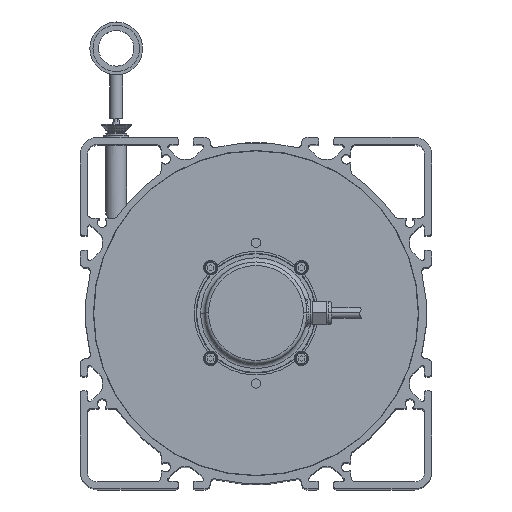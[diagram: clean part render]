
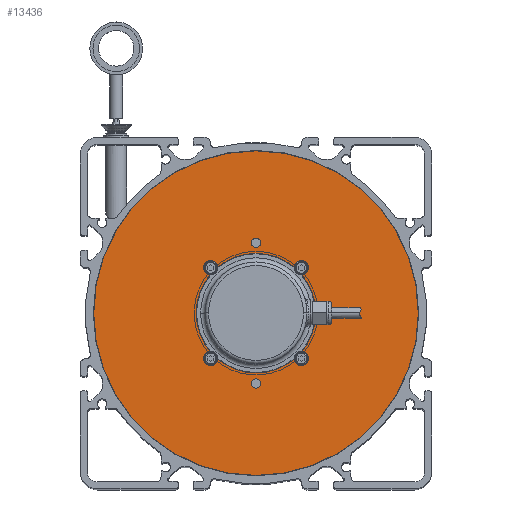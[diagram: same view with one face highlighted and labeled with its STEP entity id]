
A CAD part, top view. The second image highlights one B-rep face of the part: STEP entity #13436.
In plain terms, the highlighted planar face has unit normal (0, 0, 1) as drawn and (1, 0, 0) by its records, which use the part's own axes.
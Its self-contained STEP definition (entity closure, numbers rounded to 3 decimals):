
#12737=CARTESIAN_POINT('',(8.,0.,0.));
#12738=DIRECTION('',(-1.,0.,0.));
#12739=DIRECTION('',(0.,1.,0.));
#12740=AXIS2_PLACEMENT_3D('',#12737,#12738,#12739);
#12742=CARTESIAN_POINT('',(8.,0.,0.));
#12743=DIRECTION('',(1.,0.,0.));
#12744=DIRECTION('',(0.,1.,0.));
#12745=AXIS2_PLACEMENT_3D('',#12742,#12743,#12744);
#12747=CARTESIAN_POINT('',(8.,-25.809,-25.809));
#12748=DIRECTION('',(1.,0.,0.));
#12749=DIRECTION('',(0.,-1.,0.));
#12750=AXIS2_PLACEMENT_3D('',#12747,#12748,#12749);
#12752=CARTESIAN_POINT('',(8.,-25.809,-25.809));
#12753=DIRECTION('',(1.,0.,0.));
#12754=DIRECTION('',(0.,1.,0.));
#12755=AXIS2_PLACEMENT_3D('',#12752,#12753,#12754);
#12757=CARTESIAN_POINT('',(8.,-25.809,25.809));
#12758=DIRECTION('',(1.,0.,0.));
#12759=DIRECTION('',(0.,0.,1.));
#12760=AXIS2_PLACEMENT_3D('',#12757,#12758,#12759);
#12762=CARTESIAN_POINT('',(8.,-25.809,25.809));
#12763=DIRECTION('',(1.,0.,0.));
#12764=DIRECTION('',(0.,0.,-1.));
#12765=AXIS2_PLACEMENT_3D('',#12762,#12763,#12764);
#12767=CARTESIAN_POINT('',(8.,25.809,25.809));
#12768=DIRECTION('',(1.,0.,0.));
#12769=DIRECTION('',(0.,1.,0.));
#12770=AXIS2_PLACEMENT_3D('',#12767,#12768,#12769);
#12772=CARTESIAN_POINT('',(8.,25.809,25.809));
#12773=DIRECTION('',(1.,0.,0.));
#12774=DIRECTION('',(0.,-1.,0.));
#12775=AXIS2_PLACEMENT_3D('',#12772,#12773,#12774);
#12777=CARTESIAN_POINT('',(8.,25.809,-25.809));
#12778=DIRECTION('',(1.,0.,0.));
#12779=DIRECTION('',(0.,0.,-1.));
#12780=AXIS2_PLACEMENT_3D('',#12777,#12778,#12779);
#12782=CARTESIAN_POINT('',(8.,25.809,-25.809));
#12783=DIRECTION('',(1.,0.,0.));
#12784=DIRECTION('',(0.,0.,1.));
#12785=AXIS2_PLACEMENT_3D('',#12782,#12783,#12784);
#12787=CARTESIAN_POINT('',(8.,40.,0.));
#12788=DIRECTION('',(1.,0.,0.));
#12789=DIRECTION('',(0.,-1.,0.));
#12790=AXIS2_PLACEMENT_3D('',#12787,#12788,#12789);
#12792=CARTESIAN_POINT('',(8.,40.,0.));
#12793=DIRECTION('',(1.,0.,0.));
#12794=DIRECTION('',(0.,1.,0.));
#12795=AXIS2_PLACEMENT_3D('',#12792,#12793,#12794);
#12797=CARTESIAN_POINT('',(8.,-40.,0.));
#12798=DIRECTION('',(1.,0.,0.));
#12799=DIRECTION('',(0.,1.,0.));
#12800=AXIS2_PLACEMENT_3D('',#12797,#12798,#12799);
#12802=CARTESIAN_POINT('',(8.,-40.,0.));
#12803=DIRECTION('',(1.,0.,0.));
#12804=DIRECTION('',(0.,-1.,0.));
#12805=AXIS2_PLACEMENT_3D('',#12802,#12803,#12804);
#12807=CARTESIAN_POINT('',(8.,0.,0.));
#12808=DIRECTION('',(-1.,0.,0.));
#12809=DIRECTION('',(0.,1.,0.));
#12810=AXIS2_PLACEMENT_3D('',#12807,#12808,#12809);
#12812=CARTESIAN_POINT('',(8.,0.,0.));
#12813=DIRECTION('',(-1.,0.,0.));
#12814=DIRECTION('',(0.,-1.,0.));
#12815=AXIS2_PLACEMENT_3D('',#12812,#12813,#12814);
#13168=CARTESIAN_POINT('',(8.,34.,0.));
#13170=VERTEX_POINT('',#13168);
#13176=CARTESIAN_POINT('',(8.,-34.,0.));
#13178=VERTEX_POINT('',#13176);
#13183=CARTESIAN_POINT('',(8.,37.35,0.));
#13184=CARTESIAN_POINT('',(8.,42.65,0.));
#13185=VERTEX_POINT('',#13183);
#13186=VERTEX_POINT('',#13184);
#13187=CARTESIAN_POINT('',(8.,-37.35,0.));
#13188=CARTESIAN_POINT('',(8.,-42.65,0.));
#13189=VERTEX_POINT('',#13187);
#13190=VERTEX_POINT('',#13188);
#13195=CARTESIAN_POINT('',(8.,-28.159,-25.809));
#13196=CARTESIAN_POINT('',(8.,-23.459,-25.809));
#13197=VERTEX_POINT('',#13195);
#13198=VERTEX_POINT('',#13196);
#13203=CARTESIAN_POINT('',(8.,-25.809,28.159));
#13204=CARTESIAN_POINT('',(8.,-25.809,23.459));
#13205=VERTEX_POINT('',#13203);
#13206=VERTEX_POINT('',#13204);
#13211=CARTESIAN_POINT('',(8.,28.159,25.809));
#13212=CARTESIAN_POINT('',(8.,23.459,25.809));
#13213=VERTEX_POINT('',#13211);
#13214=VERTEX_POINT('',#13212);
#13219=CARTESIAN_POINT('',(8.,25.809,-28.159));
#13220=CARTESIAN_POINT('',(8.,25.809,-23.459));
#13221=VERTEX_POINT('',#13219);
#13222=VERTEX_POINT('',#13220);
#13227=CARTESIAN_POINT('',(8.,92.3,0.));
#13228=CARTESIAN_POINT('',(8.,-92.3,0.));
#13229=VERTEX_POINT('',#13227);
#13230=VERTEX_POINT('',#13228);
#13385=CARTESIAN_POINT('',(8.,0.,0.));
#13386=DIRECTION('',(1.,0.,0.));
#13387=DIRECTION('',(0.,-1.,0.));
#13388=AXIS2_PLACEMENT_3D('',#13385,#13386,#13387);
#13389=PLANE('',#13388);
#13391=ORIENTED_EDGE('',*,*,#13390,.T.);
#13393=ORIENTED_EDGE('',*,*,#13392,.T.);
#13394=EDGE_LOOP('',(#13391,#13393));
#13395=FACE_OUTER_BOUND('',#13394,.F.);
#13397=ORIENTED_EDGE('',*,*,#13396,.T.);
#13399=ORIENTED_EDGE('',*,*,#13398,.T.);
#13400=EDGE_LOOP('',(#13397,#13399));
#13401=FACE_BOUND('',#13400,.F.);
#13403=ORIENTED_EDGE('',*,*,#13402,.T.);
#13405=ORIENTED_EDGE('',*,*,#13404,.T.);
#13406=EDGE_LOOP('',(#13403,#13405));
#13407=FACE_BOUND('',#13406,.F.);
#13409=ORIENTED_EDGE('',*,*,#13408,.T.);
#13411=ORIENTED_EDGE('',*,*,#13410,.T.);
#13412=EDGE_LOOP('',(#13409,#13411));
#13413=FACE_BOUND('',#13412,.F.);
#13415=ORIENTED_EDGE('',*,*,#13414,.T.);
#13417=ORIENTED_EDGE('',*,*,#13416,.T.);
#13418=EDGE_LOOP('',(#13415,#13417));
#13419=FACE_BOUND('',#13418,.F.);
#13421=ORIENTED_EDGE('',*,*,#13420,.T.);
#13423=ORIENTED_EDGE('',*,*,#13422,.T.);
#13424=EDGE_LOOP('',(#13421,#13423));
#13425=FACE_BOUND('',#13424,.F.);
#13427=ORIENTED_EDGE('',*,*,#13426,.T.);
#13429=ORIENTED_EDGE('',*,*,#13428,.T.);
#13430=EDGE_LOOP('',(#13427,#13429));
#13431=FACE_BOUND('',#13430,.F.);
#13432=ORIENTED_EDGE('',*,*,#13378,.F.);
#13433=ORIENTED_EDGE('',*,*,#13367,.T.);
#13434=EDGE_LOOP('',(#13432,#13433));
#13435=FACE_BOUND('',#13434,.F.);
#13436=ADVANCED_FACE('',(#13395,#13401,#13407,#13413,#13419,#13425,#13431,
#13435),#13389,.T.);
#12741=CIRCLE('',#12740,34.);
#12746=CIRCLE('',#12745,34.);
#12751=CIRCLE('',#12750,2.35);
#12756=CIRCLE('',#12755,2.35);
#12761=CIRCLE('',#12760,2.35);
#12766=CIRCLE('',#12765,2.35);
#12771=CIRCLE('',#12770,2.35);
#12776=CIRCLE('',#12775,2.35);
#12781=CIRCLE('',#12780,2.35);
#12786=CIRCLE('',#12785,2.35);
#12791=CIRCLE('',#12790,2.65);
#12796=CIRCLE('',#12795,2.65);
#12801=CIRCLE('',#12800,2.65);
#12806=CIRCLE('',#12805,2.65);
#12811=CIRCLE('',#12810,92.3);
#12816=CIRCLE('',#12815,92.3);
#13367=EDGE_CURVE('',#13170,#13178,#12746,.T.);
#13378=EDGE_CURVE('',#13170,#13178,#12741,.T.);
#13390=EDGE_CURVE('',#13229,#13230,#12811,.T.);
#13392=EDGE_CURVE('',#13230,#13229,#12816,.T.);
#13396=EDGE_CURVE('',#13197,#13198,#12751,.T.);
#13398=EDGE_CURVE('',#13198,#13197,#12756,.T.);
#13402=EDGE_CURVE('',#13205,#13206,#12761,.T.);
#13404=EDGE_CURVE('',#13206,#13205,#12766,.T.);
#13408=EDGE_CURVE('',#13213,#13214,#12771,.T.);
#13410=EDGE_CURVE('',#13214,#13213,#12776,.T.);
#13414=EDGE_CURVE('',#13221,#13222,#12781,.T.);
#13416=EDGE_CURVE('',#13222,#13221,#12786,.T.);
#13420=EDGE_CURVE('',#13185,#13186,#12791,.T.);
#13422=EDGE_CURVE('',#13186,#13185,#12796,.T.);
#13426=EDGE_CURVE('',#13189,#13190,#12801,.T.);
#13428=EDGE_CURVE('',#13190,#13189,#12806,.T.);
